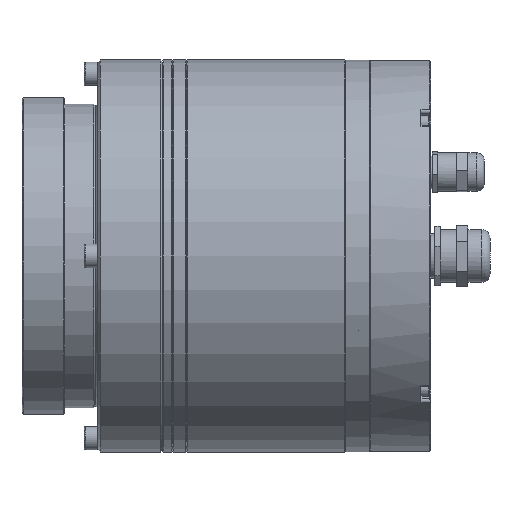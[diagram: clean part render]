
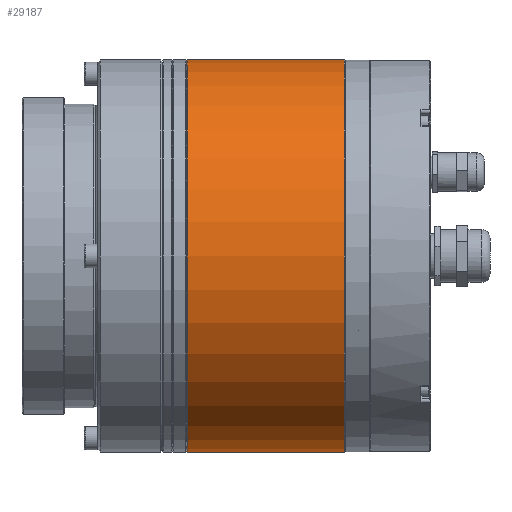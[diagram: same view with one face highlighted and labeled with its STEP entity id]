
A CAD part, front view. The second image highlights one B-rep face of the part: STEP entity #29187.
In plain terms, the highlighted cylindrical face has radius 71 mm (diameter 142 mm), a full revolution.
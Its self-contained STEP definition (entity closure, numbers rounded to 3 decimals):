
#29155=CARTESIAN_POINT('',(57.2,0.,0.));
#29156=DIRECTION('',(0.,1.,0.));
#29157=DIRECTION('',(-1.,0.,0.));
#29158=AXIS2_PLACEMENT_3D('',#29155,#29157,#29156);
#29159=CYLINDRICAL_SURFACE('',#29158,71.);
#29160=CARTESIAN_POINT('',(57.2,71.,0.));
#29161=VERTEX_POINT('',#29160);
#29162=CARTESIAN_POINT('',(0.3,71.,0.));
#29163=VERTEX_POINT('',#29162);
#29164=CARTESIAN_POINT('',(57.2,71.,0.));
#29165=DIRECTION('',(-1.,0.,0.));
#29166=VECTOR('',#29165,56.9);
#29167=LINE('',#29164,#29166);
#29168=EDGE_CURVE('',#29161,#29163,#29167,.T.);
#29169=ORIENTED_EDGE('E2301',*,*,#29168,.T.);
#29170=CARTESIAN_POINT('',(0.3,0.,0.));
#29171=DIRECTION('',(0.,1.,0.));
#29172=DIRECTION('',(1.,0.,0.));
#29173=AXIS2_PLACEMENT_3D('',#29170,#29172,#29171);
#29174=CIRCLE('',#29173,71.);
#29175=EDGE_CURVE('',#29163,#29163,#29174,.T.);
#29176=ORIENTED_EDGE('E2302',*,*,#29175,.T.);
#29177=ORIENTED_EDGE('E2302',*,*,#29168,.F.);
#29178=CARTESIAN_POINT('',(57.2,0.,0.));
#29179=DIRECTION('',(0.,1.,0.));
#29180=DIRECTION('',(-1.,0.,0.));
#29181=AXIS2_PLACEMENT_3D('',#29178,#29180,#29179);
#29182=CIRCLE('',#29181,71.);
#29183=EDGE_CURVE('',#29161,#29161,#29182,.T.);
#29184=ORIENTED_EDGE('E2303',*,*,#29183,.T.);
#29185=EDGE_LOOP('',(#29169,#29176,#29177,#29184));
#29186=FACE_OUTER_BOUND('',#29185,.T.);
#29187=ADVANCED_FACE('F913',(#29186),#29159,.T.);
